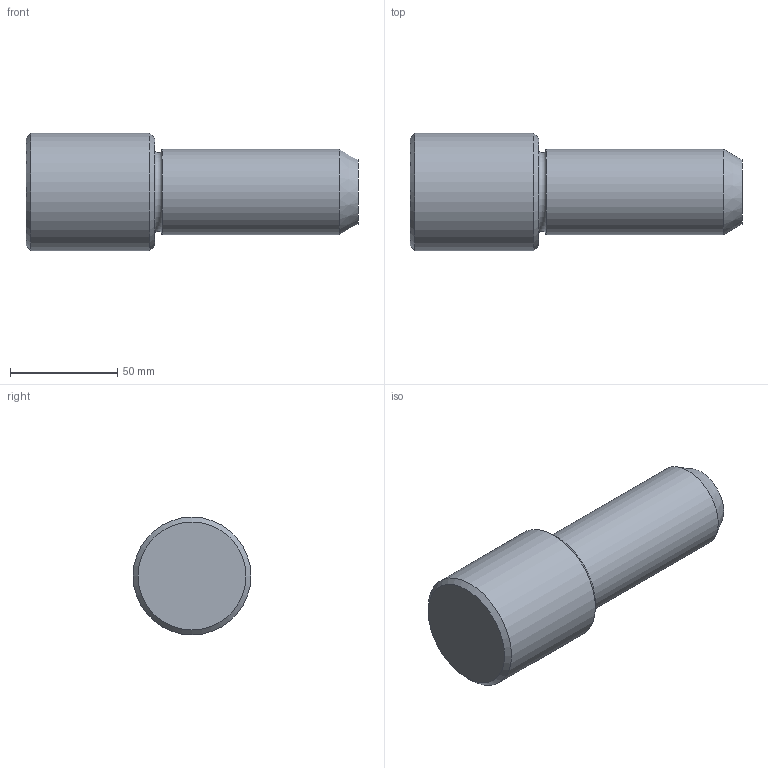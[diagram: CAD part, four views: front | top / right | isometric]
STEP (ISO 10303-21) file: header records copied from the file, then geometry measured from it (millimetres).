
FILE_DESCRIPTION(/* description */ ('Impex Ready, www.impex-ready.pl'),/* implementation_level */ '2;1');
FILE_NAME(/* name */ 'C:\Users\VIKKY\Nextcloud\SM\projekt 10 - części na stronę internetową\Pliki_3D_new\286 Słupy C3\286 C3_STEP\C340155.ipt.step',/* time_stamp */ '2021-12-21T12:03:45+01:00',/* author */ ('SM'),/* organization */ (''),/* preprocessor_version */ 'ST-DEVELOPER v18.1',/* originating_system */ 'Autodesk Inventor 2021',/* authorisation */ '');
FILE_SCHEMA (('AUTOMOTIVE_DESIGN { 1 0 10303 214 3 1 1 }'));
Length unit declared in the file: millimetre
Products named in the file (1): C340155
Bounding box: 155 x 55 x 55 mm (x, y, z)
Volume: 257943.8 mm3; surface area: 26248.8 mm2
Topology: 1 solids, 1 shells, 9 faces, 18 edges, 12 vertices
Faces by surface type: cone 3, plane 3, cylinder 2, torus 1
Full cylindrical faces by diameter (mm): 40 x1, 55 x1
Entity records: 313 total; most frequent: DIRECTION 51, CARTESIAN_POINT 40, ORIENTED_EDGE 36, AXIS2_PLACEMENT_3D 23, EDGE_CURVE 18, CIRCLE 13, VERTEX_POINT 12, EDGE_LOOP 10
